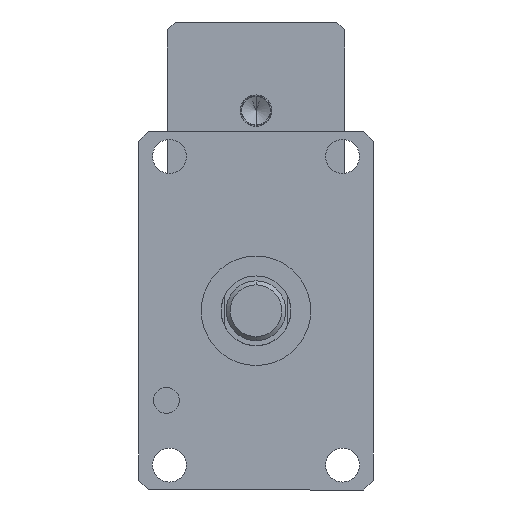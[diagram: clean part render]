
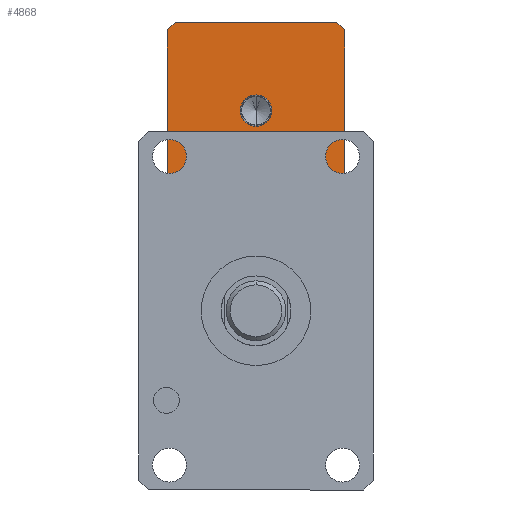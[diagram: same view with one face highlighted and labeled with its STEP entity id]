
A CAD part, front view. The second image highlights one B-rep face of the part: STEP entity #4868.
In plain terms, the highlighted planar face has unit normal (0, -1, 0).
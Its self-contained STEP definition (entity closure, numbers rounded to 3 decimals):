
#33 = DIRECTION ( 'NONE',  ( 0., 0., -1. ) ) ;
#376 = LINE ( 'NONE', #10779, #4336 ) ;
#393 = VERTEX_POINT ( 'NONE', #9838 ) ;
#1291 = LINE ( 'NONE', #8522, #11072 ) ;
#1796 = CARTESIAN_POINT ( 'NONE',  ( 0., 160., 100.5 ) ) ;
#2163 = ORIENTED_EDGE ( 'NONE', *, *, #8645, .F. ) ;
#2354 = VECTOR ( 'NONE', #5711, 1000. ) ;
#2573 = ORIENTED_EDGE ( 'NONE', *, *, #6486, .F. ) ;
#2763 = DIRECTION ( 'NONE',  ( 0., 0., -1. ) ) ;
#2772 = VERTEX_POINT ( 'NONE', #8546 ) ;
#2802 = VECTOR ( 'NONE', #8956, 1000. ) ;
#2891 = DIRECTION ( 'NONE',  ( 0.707, 0., -0.707 ) ) ;
#3068 = DIRECTION ( 'NONE',  ( 1., 0., 0. ) ) ;
#3111 = LINE ( 'NONE', #5060, #2802 ) ;
#3125 = LINE ( 'NONE', #5975, #10939 ) ;
#3686 = CARTESIAN_POINT ( 'NONE',  ( 40.5, 160., 56. ) ) ;
#3870 = VECTOR ( 'NONE', #9240, 1000. ) ;
#3956 = VERTEX_POINT ( 'NONE', #5064 ) ;
#4086 = AXIS2_PLACEMENT_3D ( 'NONE', #1796, #8612, #2763 ) ;
#4155 = DIRECTION ( 'NONE',  ( 0., 1., 0. ) ) ;
#4156 = DIRECTION ( 'NONE',  ( 0., -1., 0. ) ) ;
#4188 = FACE_OUTER_BOUND ( 'NONE', #5538, .T. ) ;
#4336 = VECTOR ( 'NONE', #9576, 1000. ) ;
#4452 = ORIENTED_EDGE ( 'NONE', *, *, #8073, .T. ) ;
#4473 = ORIENTED_EDGE ( 'NONE', *, *, #8487, .T. ) ;
#4567 = DIRECTION ( 'NONE',  ( 0.707, 0., 0.707 ) ) ;
#4619 = VERTEX_POINT ( 'NONE', #3686 ) ;
#4868 = ADVANCED_FACE ( 'NONE', ( #12271, #4188 ), #5052, .F. ) ;
#4880 = CARTESIAN_POINT ( 'NONE',  ( -44.5, 160., 145. ) ) ;
#4958 = LINE ( 'NONE', #5670, #2354 ) ;
#4976 = ORIENTED_EDGE ( 'NONE', *, *, #8319, .F. ) ;
#4999 = CARTESIAN_POINT ( 'NONE',  ( -40.5, 160., 56. ) ) ;
#5052 = PLANE ( 'NONE',  #5256 ) ;
#5060 = CARTESIAN_POINT ( 'NONE',  ( 40.5, 160., 145. ) ) ;
#5064 = CARTESIAN_POINT ( 'NONE',  ( 44.5, 160., 141. ) ) ;
#5256 = AXIS2_PLACEMENT_3D ( 'NONE', #5999, #4155, #10997 ) ;
#5538 = EDGE_LOOP ( 'NONE', ( #10358, #7237, #4452, #7527, #4976, #4473, #2163, #8509 ) ) ;
#5670 = CARTESIAN_POINT ( 'NONE',  ( 44.5, 160., 145. ) ) ;
#5711 = DIRECTION ( 'NONE',  ( 0., 0., -1. ) ) ;
#5756 = CARTESIAN_POINT ( 'NONE',  ( -44.5, 160., 60. ) ) ;
#5952 = EDGE_LOOP ( 'NONE', ( #12443, #2573 ) ) ;
#5975 = CARTESIAN_POINT ( 'NONE',  ( 44.5, 160., 56. ) ) ;
#5999 = CARTESIAN_POINT ( 'NONE',  ( 44.5, 160., 145. ) ) ;
#6196 = VERTEX_POINT ( 'NONE', #8028 ) ;
#6245 = CARTESIAN_POINT ( 'NONE',  ( 44.5, 160., 145. ) ) ;
#6424 = LINE ( 'NONE', #6245, #3870 ) ;
#6486 = EDGE_CURVE ( 'NONE', #10206, #6196, #8203, .T. ) ;
#7237 = ORIENTED_EDGE ( 'NONE', *, *, #7997, .T. ) ;
#7527 = ORIENTED_EDGE ( 'NONE', *, *, #8241, .T. ) ;
#7639 = EDGE_CURVE ( 'NONE', #8556, #12092, #10331, .T. ) ;
#7914 = EDGE_CURVE ( 'NONE', #6196, #10206, #10176, .T. ) ;
#7997 = EDGE_CURVE ( 'NONE', #12092, #9051, #9559, .T. ) ;
#8028 = CARTESIAN_POINT ( 'NONE',  ( 0., 160., 92.597 ) ) ;
#8073 = EDGE_CURVE ( 'NONE', #9051, #4619, #3125, .T. ) ;
#8078 = CARTESIAN_POINT ( 'NONE',  ( -44.5, 160., 141. ) ) ;
#8203 = CIRCLE ( 'NONE', #9056, 7.903 ) ;
#8241 = EDGE_CURVE ( 'NONE', #4619, #2772, #1291, .T. ) ;
#8319 = EDGE_CURVE ( 'NONE', #3956, #2772, #4958, .T. ) ;
#8487 = EDGE_CURVE ( 'NONE', #3956, #393, #3111, .T. ) ;
#8509 = ORIENTED_EDGE ( 'NONE', *, *, #8824, .T. ) ;
#8522 = CARTESIAN_POINT ( 'NONE',  ( 44.5, 160., 60. ) ) ;
#8546 = CARTESIAN_POINT ( 'NONE',  ( 44.5, 160., 60. ) ) ;
#8556 = VERTEX_POINT ( 'NONE', #8078 ) ;
#8612 = DIRECTION ( 'NONE',  ( 0., -1., 0. ) ) ;
#8645 = EDGE_CURVE ( 'NONE', #8935, #393, #6424, .T. ) ;
#8824 = EDGE_CURVE ( 'NONE', #8935, #8556, #376, .T. ) ;
#8935 = VERTEX_POINT ( 'NONE', #10685 ) ;
#8956 = DIRECTION ( 'NONE',  ( -0.707, 0., 0.707 ) ) ;
#9051 = VERTEX_POINT ( 'NONE', #4999 ) ;
#9056 = AXIS2_PLACEMENT_3D ( 'NONE', #10018, #4156, #10999 ) ;
#9240 = DIRECTION ( 'NONE',  ( 1., 0., 0. ) ) ;
#9559 = LINE ( 'NONE', #11637, #11839 ) ;
#9576 = DIRECTION ( 'NONE',  ( -0.707, 0., -0.707 ) ) ;
#9838 = CARTESIAN_POINT ( 'NONE',  ( 40.5, 160., 145. ) ) ;
#10018 = CARTESIAN_POINT ( 'NONE',  ( 0., 160., 100.5 ) ) ;
#10123 = CARTESIAN_POINT ( 'NONE',  ( 0., 160., 108.403 ) ) ;
#10176 = CIRCLE ( 'NONE', #4086, 7.903 ) ;
#10206 = VERTEX_POINT ( 'NONE', #10123 ) ;
#10331 = LINE ( 'NONE', #4880, #12592 ) ;
#10358 = ORIENTED_EDGE ( 'NONE', *, *, #7639, .T. ) ;
#10685 = CARTESIAN_POINT ( 'NONE',  ( -40.5, 160., 145. ) ) ;
#10779 = CARTESIAN_POINT ( 'NONE',  ( -40.5, 160., 145. ) ) ;
#10939 = VECTOR ( 'NONE', #3068, 1000. ) ;
#10997 = DIRECTION ( 'NONE',  ( 0., 0., 1. ) ) ;
#10999 = DIRECTION ( 'NONE',  ( 0., 0., -1. ) ) ;
#11072 = VECTOR ( 'NONE', #4567, 1000. ) ;
#11637 = CARTESIAN_POINT ( 'NONE',  ( -44.5, 160., 60. ) ) ;
#11839 = VECTOR ( 'NONE', #2891, 1000. ) ;
#12092 = VERTEX_POINT ( 'NONE', #5756 ) ;
#12271 = FACE_BOUND ( 'NONE', #5952, .T. ) ;
#12443 = ORIENTED_EDGE ( 'NONE', *, *, #7914, .F. ) ;
#12592 = VECTOR ( 'NONE', #33, 1000. ) ;
